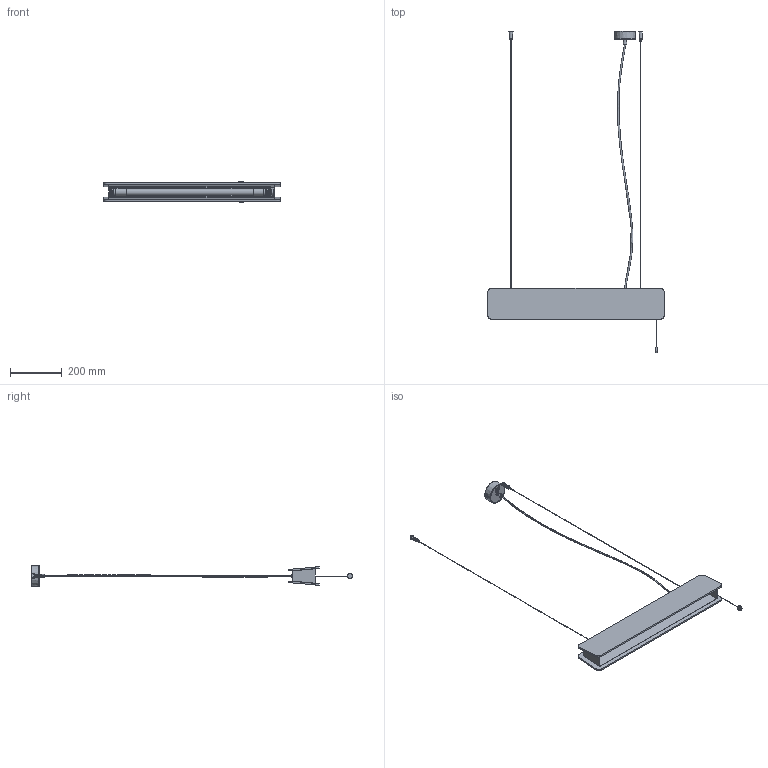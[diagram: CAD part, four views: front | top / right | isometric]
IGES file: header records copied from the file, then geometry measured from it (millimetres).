
Start section: SolidWorks IGES file using analytic representation for surfaces
Global section: file name: E:\....SOLID WORKS\...BORYS\OSLO\OSLO T8\OSLO 600 zwis.IGS; native system: SolidWorks 2016; preprocessor: SolidWorks 2016; author: DELL; date: 170418.110316; units: millimetre
Bounding box: 680 x 1239.28 x 80 mm (x, y, z)
Surface area: 878279.5 mm2 (no closed solid volume)
Topology: 0 solids, 0 shells, 2828 faces, 28510 edges, 28496 vertices
Faces by surface type: bspline 2032, revolution 796
